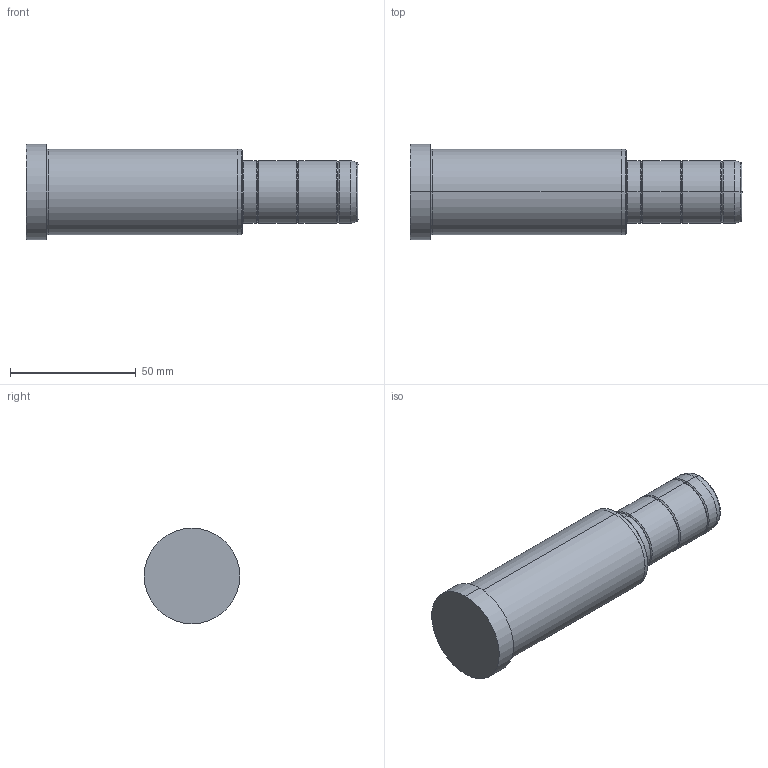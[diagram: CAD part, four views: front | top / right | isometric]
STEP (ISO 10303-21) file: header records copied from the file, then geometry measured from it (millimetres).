
FILE_DESCRIPTION( ( 'STEP AP203' ), '1' );
FILE_NAME( 'C:/Projects/D02 - 25x86x46.step', '2002-12-31T22:20:09', ( ' ' ), ( ' ' ), 'XStep 1.0', ' ', ' ' );
FILE_SCHEMA( ( 'CONFIG_CONTROL_DESIGN' ) );
Length unit declared in the file: metre
Products named in the file (1): 1
Bounding box: 132 x 38 x 38 mm (x, y, z)
Volume: 102350.2 mm3; surface area: 15173.7 mm2
Topology: 1 solids, 1 shells, 42 faces, 82 edges, 46 vertices
Faces by surface type: bspline 22, revolution 20
Entity records: 1325 total; most frequent: CARTESIAN_POINT 517, ORIENTED_EDGE 164, DIRECTION 134, EDGE_CURVE 82, AXIS2_PLACEMENT_3D 47, EDGE_LOOP 46, VERTEX_POINT 46, CIRCLE 46
